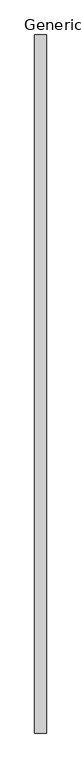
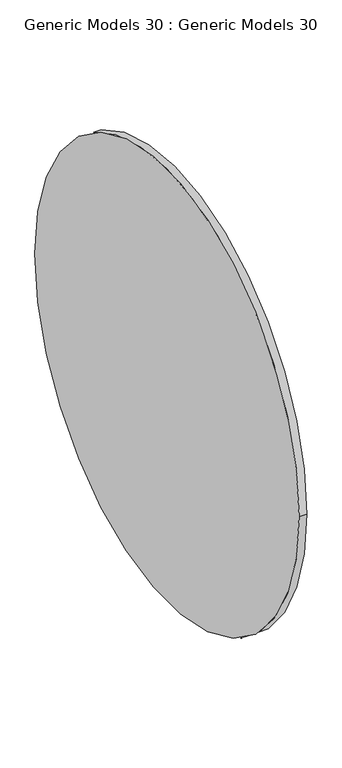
"""IFC4 building model written with IfcOpenShell, lengths in millimetres: proxy geometry, Generic Models 30 : Generic Models 30."""

from ifc_helpers import new_model, si_unit, point, frame, frame_2d, origin, place, context, project, spatial, circle_curve, trimmed, segment, composite_curve, outline, extrude, source, transform, mapped, element, save


def generic_models_30_generic_models_30_8323e78c(model_context):
    return source(origin(), model_context, "Body", "SweptSolid", [
        extrude(outline(composite_curve([segment(trimmed(circle_curve(frame_2d((15345.922084, 1659.5601814)), 600.0), [point((14745.922084, 1659.5601814))], [point((15945.922084, 1659.5601814))], False, "CARTESIAN"), True, "CONTINUOUS"), segment(trimmed(circle_curve(frame_2d((15345.922084, 1659.5601814)), 600.0), [point((15945.922084, 1659.5601814))], [point((14745.922084, 1659.5601814))], False, "CARTESIAN"), True, "CONTINUOUS")], self_intersect=False)), frame((90925.423998, 0.0, 0.0), z_axis=(1.0, 0.0, 0.0), x_axis=(0.0, 1.0, 0.0)), (0.0, 0.0, 1.0), 20.0),
    ])


if __name__ == "__main__":
    model = new_model("IFC4")
    model_context = context("Model", 3, world=origin())
    ifc_project = project(units=[si_unit("LENGTHUNIT", "METRE", prefix="MILLI")], contexts=[model_context])
    site = spatial("IfcSite", under=ifc_project)
    building = spatial("IfcBuilding", under=site)
    placement = place(None, origin())
    generic_models_30_generic_models_30_shape = generic_models_30_generic_models_30_8323e78c(model_context)
    element("IfcBuildingElementProxy", 1, Name="Generic Models 30 : Generic Models 30", ObjectType="Generic Models 30 : Generic Models 30", at=placement, inside=building, context=model_context, shape_type="MappedRepresentation", body=[
        mapped(generic_models_30_generic_models_30_shape, transform((0.0, 0.0, 0.0), x_axis=(1.0, 0.0, 0.0), y_axis=(0.0, 1.0, 0.0), z_axis=(0.0, 0.0, 1.0))),
    ])
    save(model, "model.ifc")
